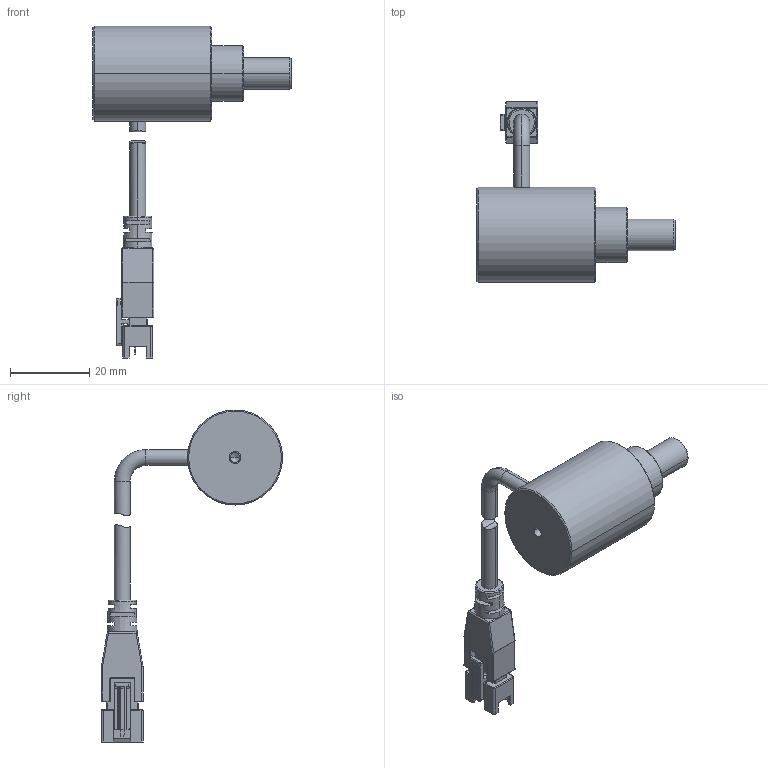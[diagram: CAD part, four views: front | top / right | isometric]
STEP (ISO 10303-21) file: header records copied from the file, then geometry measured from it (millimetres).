
FILE_DESCRIPTION((''),'2;1');
FILE_NAME('JIANYI_ASM','2014-06-11T',('admin'),(''),'PRO/ENGINEER BY PARAMETRIC TECHNOLOGY CORPORATION, 2011220','PRO/ENGINEER BY PARAMETRIC TECHNOLOGY CORPORATION, 2011220','');
FILE_SCHEMA(('CONFIG_CONTROL_DESIGN'));
Length unit declared in the file: millimetre
Products named in the file (3): JIANYI; LINE_TOU; JIANYI_ASM
Assembly tree (2 placements, depth 2):
  JIANYI_ASM
    JIANYI
    LINE_TOU
Bounding box: 50 x 45.73 x 83.8 mm (x, y, z)
Volume: 17915.8 mm3; surface area: 6474 mm2
Topology: 3 solids, 4 shells, 258 faces, 639 edges, 400 vertices
Faces by surface type: plane 141, cylinder 79, cone 12, torus 10, bspline 8, sphere 8
Entity records: 7885 total; most frequent: CARTESIAN_POINT 1638, DIRECTION 1305, ORIENTED_EDGE 1270, EDGE_CURVE 637, AXIS2_PLACEMENT_3D 449, VECTOR 407, LINE 407, VERTEX_POINT 400
